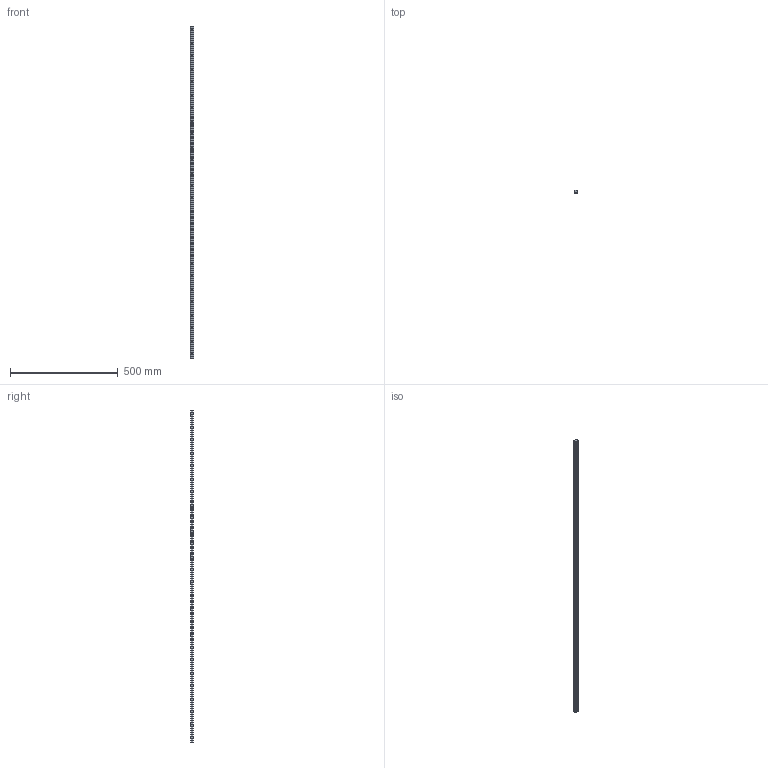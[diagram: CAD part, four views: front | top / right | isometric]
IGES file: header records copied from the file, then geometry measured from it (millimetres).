
Start section: SolidWorks IGES file using analytic representation for surfaces
Global section: file name: C:\Users\IanO\Desktop\L1016_v2\L1016.BL15_v2\L1016.BL15_v2_20190611_IGES\L1016.BL15-1540.igs; native system: SolidWorks 2017; preprocessor: SolidWorks 2017; author: IanO; date: 190612.122906; units: millimetre
Bounding box: 15 x 13 x 1540 mm (x, y, z)
Surface area: 94253.8 mm2 (no closed solid volume)
Topology: 0 solids, 0 shells, 156 faces, 3896 edges, 3896 vertices
Faces by surface type: revolution 108, bspline 48
